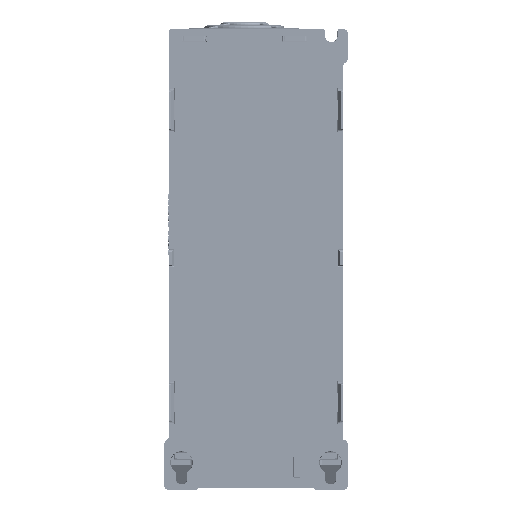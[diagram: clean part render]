
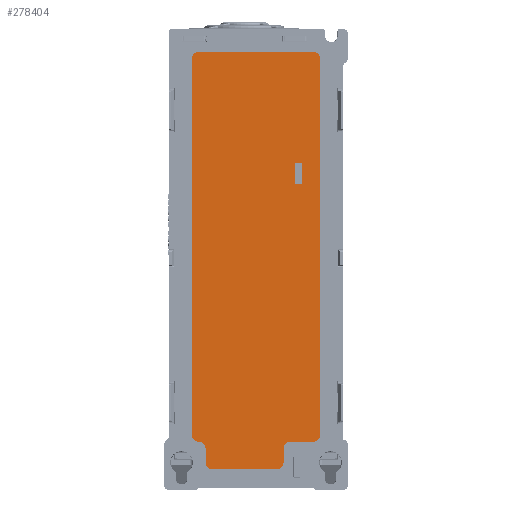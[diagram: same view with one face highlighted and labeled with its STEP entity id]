
A CAD part, front view. The second image highlights one B-rep face of the part: STEP entity #278404.
In plain terms, the highlighted planar face has unit normal (0, -1, 0).
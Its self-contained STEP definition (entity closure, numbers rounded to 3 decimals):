
#19291=FACE_BOUND('',#49530,.T.);
#21898=CIRCLE('',#296571,3.);
#21899=CIRCLE('',#296572,3.);
#21900=CIRCLE('',#296573,3.);
#21901=CIRCLE('',#296574,3.);
#21902=CIRCLE('',#296575,3.);
#21903=CIRCLE('',#296576,3.);
#21904=CIRCLE('',#296577,3.);
#21905=CIRCLE('',#296578,3.);
#33362=FACE_OUTER_BOUND('',#49529,.T.);
#49529=EDGE_LOOP('',(#229855,#229856,#229857,#229858,#229859,#229860,#229861,
#229862,#229863,#229864,#229865,#229866,#229867,#229868,#229869));
#49530=EDGE_LOOP('',(#229870,#229871,#229872,#229873));
#74427=LINE('',#457984,#102576);
#74430=LINE('',#457990,#102579);
#74431=LINE('',#457994,#102580);
#74432=LINE('',#457998,#102581);
#74433=LINE('',#458002,#102582);
#74434=LINE('',#458006,#102583);
#74435=LINE('',#458010,#102584);
#74436=LINE('',#458014,#102585);
#74437=LINE('',#458019,#102586);
#74438=LINE('',#458021,#102587);
#74439=LINE('',#458022,#102588);
#102576=VECTOR('',#347391,10.);
#102579=VECTOR('',#347396,6.);
#102580=VECTOR('',#347399,28.);
#102581=VECTOR('',#347402,6.);
#102582=VECTOR('',#347405,10.);
#102583=VECTOR('',#347408,164.);
#102584=VECTOR('',#347411,50.);
#102585=VECTOR('',#347414,164.);
#102586=VECTOR('',#347419,10.);
#102587=VECTOR('',#347420,10.);
#102588=VECTOR('',#347421,10.);
#128528=VERTEX_POINT('',#457982);
#128529=VERTEX_POINT('',#457983);
#128530=VERTEX_POINT('',#457988);
#128531=VERTEX_POINT('',#457989);
#128532=VERTEX_POINT('',#457991);
#128533=VERTEX_POINT('',#457993);
#128534=VERTEX_POINT('',#457995);
#128535=VERTEX_POINT('',#457997);
#128536=VERTEX_POINT('',#457999);
#128537=VERTEX_POINT('',#458001);
#128538=VERTEX_POINT('',#458003);
#128539=VERTEX_POINT('',#458005);
#128540=VERTEX_POINT('',#458007);
#128541=VERTEX_POINT('',#458009);
#128542=VERTEX_POINT('',#458011);
#128543=VERTEX_POINT('',#458013);
#128544=VERTEX_POINT('',#458015);
#128545=VERTEX_POINT('',#458018);
#128546=VERTEX_POINT('',#458020);
#163698=EDGE_CURVE('',#128528,#128529,#74427,.T.);
#163701=EDGE_CURVE('',#128530,#128531,#74430,.T.);
#163702=EDGE_CURVE('',#128532,#128530,#21898,.T.);
#163703=EDGE_CURVE('',#128533,#128532,#74431,.T.);
#163704=EDGE_CURVE('',#128534,#128533,#21899,.T.);
#163705=EDGE_CURVE('',#128535,#128534,#74432,.T.);
#163706=EDGE_CURVE('',#128536,#128535,#21900,.T.);
#163707=EDGE_CURVE('',#128537,#128536,#74433,.T.);
#163708=EDGE_CURVE('',#128538,#128537,#21901,.T.);
#163709=EDGE_CURVE('',#128539,#128538,#74434,.T.);
#163710=EDGE_CURVE('',#128540,#128539,#21902,.T.);
#163711=EDGE_CURVE('',#128541,#128540,#74435,.T.);
#163712=EDGE_CURVE('',#128542,#128541,#21903,.T.);
#163713=EDGE_CURVE('',#128543,#128542,#74436,.T.);
#163714=EDGE_CURVE('',#128544,#128543,#21904,.T.);
#163715=EDGE_CURVE('',#128531,#128544,#21905,.T.);
#163716=EDGE_CURVE('',#128545,#128528,#74437,.T.);
#163717=EDGE_CURVE('',#128546,#128545,#74438,.T.);
#163718=EDGE_CURVE('',#128546,#128529,#74439,.T.);
#229855=ORIENTED_EDGE('',*,*,#163701,.F.);
#229856=ORIENTED_EDGE('',*,*,#163702,.F.);
#229857=ORIENTED_EDGE('',*,*,#163703,.F.);
#229858=ORIENTED_EDGE('',*,*,#163704,.F.);
#229859=ORIENTED_EDGE('',*,*,#163705,.F.);
#229860=ORIENTED_EDGE('',*,*,#163706,.F.);
#229861=ORIENTED_EDGE('',*,*,#163707,.F.);
#229862=ORIENTED_EDGE('',*,*,#163708,.F.);
#229863=ORIENTED_EDGE('',*,*,#163709,.F.);
#229864=ORIENTED_EDGE('',*,*,#163710,.F.);
#229865=ORIENTED_EDGE('',*,*,#163711,.F.);
#229866=ORIENTED_EDGE('',*,*,#163712,.F.);
#229867=ORIENTED_EDGE('',*,*,#163713,.F.);
#229868=ORIENTED_EDGE('',*,*,#163714,.F.);
#229869=ORIENTED_EDGE('',*,*,#163715,.F.);
#229870=ORIENTED_EDGE('',*,*,#163698,.F.);
#229871=ORIENTED_EDGE('',*,*,#163716,.F.);
#229872=ORIENTED_EDGE('',*,*,#163717,.F.);
#229873=ORIENTED_EDGE('',*,*,#163718,.T.);
#265871=PLANE('',#296570);
#278404=ADVANCED_FACE('',(#33362,#19291),#265871,.T.);
#296570=AXIS2_PLACEMENT_3D('',#457987,#347394,#347395);
#296571=AXIS2_PLACEMENT_3D('',#457992,#347397,#347398);
#296572=AXIS2_PLACEMENT_3D('',#457996,#347400,#347401);
#296573=AXIS2_PLACEMENT_3D('',#458000,#347403,#347404);
#296574=AXIS2_PLACEMENT_3D('',#458004,#347406,#347407);
#296575=AXIS2_PLACEMENT_3D('',#458008,#347409,#347410);
#296576=AXIS2_PLACEMENT_3D('',#458012,#347412,#347413);
#296577=AXIS2_PLACEMENT_3D('',#458016,#347415,#347416);
#296578=AXIS2_PLACEMENT_3D('',#458017,#347417,#347418);
#347391=DIRECTION('',(1.,0.,0.));
#347394=DIRECTION('center_axis',(0.,-1.,0.));
#347395=DIRECTION('ref_axis',(1.,0.,0.));
#347396=DIRECTION('',(0.,0.,1.));
#347397=DIRECTION('center_axis',(0.,1.,0.));
#347398=DIRECTION('ref_axis',(0.,0.,-1.));
#347399=DIRECTION('',(-1.,0.,0.));
#347400=DIRECTION('center_axis',(0.,1.,0.));
#347401=DIRECTION('ref_axis',(1.,0.,0.));
#347402=DIRECTION('',(0.,0.,-1.));
#347403=DIRECTION('center_axis',(0.,-1.,0.));
#347404=DIRECTION('ref_axis',(0.,0.,1.));
#347405=DIRECTION('',(-1.,0.,0.));
#347406=DIRECTION('center_axis',(0.,1.,0.));
#347407=DIRECTION('ref_axis',(1.,0.,0.));
#347408=DIRECTION('',(0.,0.,-1.));
#347409=DIRECTION('center_axis',(0.,1.,0.));
#347410=DIRECTION('ref_axis',(0.,0.,1.));
#347411=DIRECTION('',(1.,0.,0.));
#347412=DIRECTION('center_axis',(0.,1.,0.));
#347413=DIRECTION('ref_axis',(-1.,0.,0.));
#347414=DIRECTION('',(0.,0.,1.));
#347415=DIRECTION('center_axis',(0.,1.,0.));
#347416=DIRECTION('ref_axis',(0.,0.,-1.));
#347417=DIRECTION('center_axis',(0.,-1.,0.));
#347418=DIRECTION('ref_axis',(1.,0.,0.));
#347419=DIRECTION('',(0.,0.,-1.));
#347420=DIRECTION('',(-1.,0.,0.));
#347421=DIRECTION('',(0.,0.,-1.));
#457982=CARTESIAN_POINT('',(16.834,1.,32.434));
#457983=CARTESIAN_POINT('',(19.965,1.,32.435));
#457984=CARTESIAN_POINT('',(8.424,1.,32.43));
#457987=CARTESIAN_POINT('Origin',(0.,1.,-100.));
#457988=CARTESIAN_POINT('',(-22.,1.,-89.));
#457989=CARTESIAN_POINT('',(-22.,1.,-83.));
#457990=CARTESIAN_POINT('',(-22.,1.,-89.));
#457991=CARTESIAN_POINT('',(-19.,1.,-92.));
#457992=CARTESIAN_POINT('Origin',(-19.,1.,-89.));
#457993=CARTESIAN_POINT('',(9.,1.,-92.));
#457994=CARTESIAN_POINT('',(9.,1.,-92.));
#457995=CARTESIAN_POINT('',(12.,1.,-89.));
#457996=CARTESIAN_POINT('Origin',(9.,1.,-89.));
#457997=CARTESIAN_POINT('',(12.,1.,-83.));
#457998=CARTESIAN_POINT('',(12.,1.,-83.));
#457999=CARTESIAN_POINT('',(15.,1.,-80.));
#458000=CARTESIAN_POINT('Origin',(15.,1.,-83.));
#458001=CARTESIAN_POINT('',(25.,1.,-80.));
#458002=CARTESIAN_POINT('',(25.,1.,-80.));
#458003=CARTESIAN_POINT('',(28.,1.,-77.));
#458004=CARTESIAN_POINT('Origin',(25.,1.,-77.));
#458005=CARTESIAN_POINT('',(28.,1.,87.));
#458006=CARTESIAN_POINT('',(28.,1.,87.));
#458007=CARTESIAN_POINT('',(25.,1.,90.));
#458008=CARTESIAN_POINT('Origin',(25.,1.,87.));
#458009=CARTESIAN_POINT('',(-25.,1.,90.));
#458010=CARTESIAN_POINT('',(-25.,1.,90.));
#458011=CARTESIAN_POINT('',(-28.,1.,87.));
#458012=CARTESIAN_POINT('Origin',(-25.,1.,87.));
#458013=CARTESIAN_POINT('',(-28.,1.,-77.));
#458014=CARTESIAN_POINT('',(-28.,1.,-77.));
#458015=CARTESIAN_POINT('',(-25.,1.,-80.));
#458016=CARTESIAN_POINT('Origin',(-25.,1.,-77.));
#458017=CARTESIAN_POINT('Origin',(-25.,1.,-83.));
#458018=CARTESIAN_POINT('',(16.834,1.,41.566));
#458019=CARTESIAN_POINT('',(16.834,1.,-33.75));
#458020=CARTESIAN_POINT('',(19.965,1.,41.565));
#458021=CARTESIAN_POINT('',(9.978,1.,41.569));
#458022=CARTESIAN_POINT('',(19.965,1.,-33.75));
